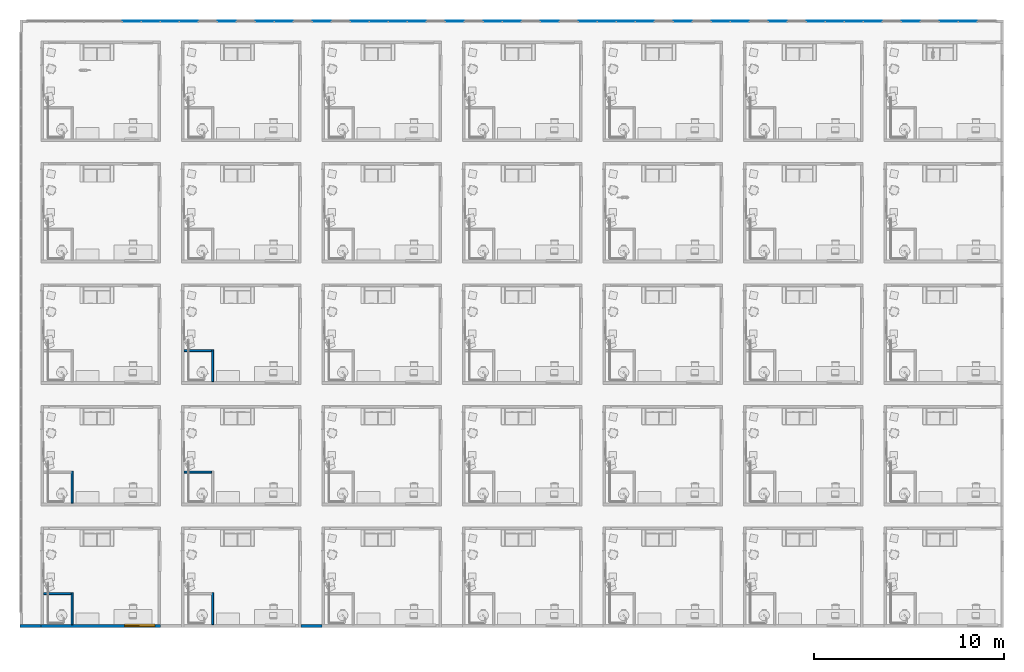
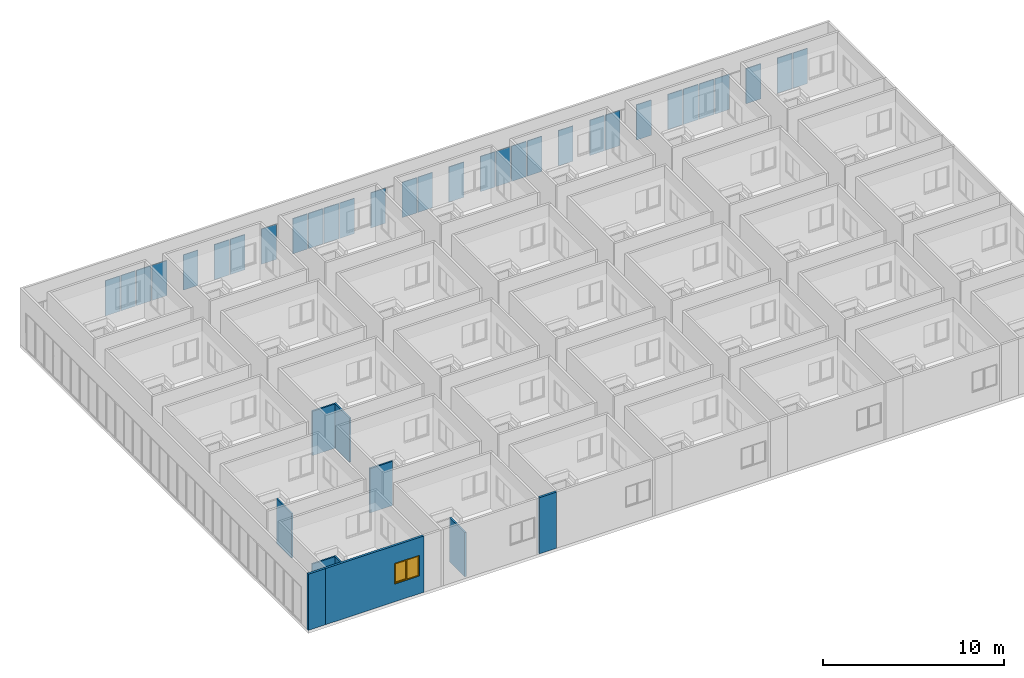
# One storey, part 6 of 71: 31 plates, 10 walls, 1 window, 1 opening, 1 element without a shape of its own.
"""IFC4 building model written with IfcOpenShell, lengths in centimetres."""

from ifc_helpers import new_model, entity, si_unit, converted_unit, derived_unit, direction, frame, origin, place, context, subcontext, project, spatial, indexed_curve, outline, extrude, polygons, source, transform, mapped, material, constituent, constituent_set, type_object, type_shapes, element, fill, aggregate, save


model = new_model("IFC4")

# Units and contexts
model_context = context("Model", 3, precision=0.001, world=origin(), true_north=direction((6.123233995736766e-17, 1.0)))
body_context = subcontext(model_context, "Body", "Model", "MODEL_VIEW")
ifc_project = project(units=[si_unit("LENGTHUNIT", "METRE", prefix="CENTI"), si_unit("AREAUNIT", "SQUARE_METRE"), si_unit("VOLUMEUNIT", "CUBIC_METRE"), derived_unit("THERMALTRANSMITTANCEUNIT", [(si_unit("MASSUNIT", "GRAM", prefix="KILO"), 1), (si_unit("THERMODYNAMICTEMPERATUREUNIT", "KELVIN"), -1), (si_unit("TIMEUNIT", "SECOND"), -3)]), converted_unit("PLANEANGLEUNIT", "DEGREE", entity("IfcPlaneAngleMeasure", 0.017453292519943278), si_unit("PLANEANGLEUNIT", "RADIAN"), dimensions=[0, 0, 0, 0, 0, 0, 0]), derived_unit("MASSDENSITYUNIT", [(si_unit("MASSUNIT", "GRAM", prefix="KILO"), 1), (si_unit("LENGTHUNIT", "METRE"), -3)]), derived_unit("VAPORPERMEABILITYUNIT", [(si_unit("LENGTHUNIT", "METRE"), -1), (si_unit("TIMEUNIT", "SECOND"), 1)]), derived_unit("USERDEFINED", [(si_unit("MASSUNIT", "GRAM", prefix="KILO"), 1), (si_unit("TIMEUNIT", "SECOND"), -3), (si_unit("LENGTHUNIT", "METRE"), 3), (si_unit("ELECTRICCURRENTUNIT", "AMPERE"), -2)]), derived_unit("SPECIFICHEATCAPACITYUNIT", [(si_unit("THERMODYNAMICTEMPERATUREUNIT", "KELVIN"), -1), (si_unit("LENGTHUNIT", "METRE"), 2), (si_unit("TIMEUNIT", "SECOND"), -2)]), derived_unit("THERMALCONDUCTANCEUNIT", [(si_unit("MASSUNIT", "GRAM", prefix="KILO"), 1), (si_unit("THERMODYNAMICTEMPERATUREUNIT", "KELVIN"), -1), (si_unit("TIMEUNIT", "SECOND"), -3), (si_unit("LENGTHUNIT", "METRE"), 1)]), si_unit("PRESSUREUNIT", "PASCAL"), derived_unit("MODULUSOFELASTICITYUNIT", [(si_unit("MASSUNIT", "GRAM", prefix="KILO"), 1), (si_unit("LENGTHUNIT", "METRE"), -1), (si_unit("TIMEUNIT", "SECOND"), -2)]), derived_unit("THERMALEXPANSIONCOEFFICIENTUNIT", [(si_unit("THERMODYNAMICTEMPERATUREUNIT", "KELVIN"), -1)])], contexts=[model_context])

# Site, building, storey
site_placement = place(None, origin())
site = spatial("IfcSite", under=ifc_project, at=site_placement, Name="Default", CompositionType="ELEMENT")
building_placement = place(site_placement, origin())
building = spatial("IfcBuilding", under=site, at=building_placement, Name="IDS Escape Game Building", CompositionType="ELEMENT")
storey_placement = place(building_placement, frame((0.0, 0.0, 400.0)))
storey = spatial("IfcBuildingStorey", under=building, at=storey_placement, Name="01_First Floor", CompositionType="ELEMENT", Elevation=399.99999999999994)

# Curtain wall, plates
curtain_wall_type = type_object("IfcCurtainWallType", Name="Curtain Wall:ARC_31.3_CWA_LIB_bandraam vast 100cm - profiel 60x60_gen_BERSnl", PredefinedType="NOTDEFINED")
curtain_wall_placement = place(storey_placement, frame((0.0, 0.0, -400.0)))
curtain_wall = element("IfcCurtainWall", 1, at=curtain_wall_placement, inside=storey, type_object=curtain_wall_type, Name="Curtain Wall:ARC_31.3_CWA_LIB_bandraam vast 100cm - profiel 60x60_gen_BERSnl", ObjectType="Curtain Wall:ARC_31.3_CWA_LIB_bandraam vast 100cm - profiel 60x60_gen_BERSnl", PredefinedType="NOTDEFINED")
ifc_material_1 = material(Name="ARC_FME.o1_glass_00_gen_BERSnl", Category="o - glas")
plate_type = type_object("IfcPlateType", Name="System Panel:Glazed", PredefinedType="CURTAIN_PANEL", material=ifc_material_1)
shared_shape_1 = source(origin(), body_context, "Body", "SweptSolid", [
    extrude(outline(indexed_curve([(-2.5, -46.92156864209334), (2.5, -46.92156864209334), (2.5, 46.92156864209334), (-2.5, 46.92156864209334), (-2.5, -46.92156864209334)], self_intersect=False)), frame((0.0, 0.0, 0.0), z_axis=(0.0, 0.0, 1.0), x_axis=(0.0, 1.0, 0.0)), (0.0, 0.0, 1.0), 238.00000000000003),
])
type_shapes(plate_type, [shared_shape_1])
plate_1_placement = place(curtain_wall_placement, frame((469.1372549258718, 3182.0, 406.0)))
plate_1 = element("IfcPlate", 2, at=plate_1_placement, type_object=plate_type, material=ifc_material_1, Name="System Panel:Glazed", ObjectType="System Panel:Glazed", PredefinedType="CURTAIN_PANEL", context=body_context, shape_type="MappedRepresentation", body=[
    mapped(shared_shape_1, transform((0.0, 0.0, 0.0), scale=1.0)),
])
plate_2_placement = place(curtain_wall_placement, frame((568.9803921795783, 3182.0, 406.0)))
plate_2 = element("IfcPlate", 3, at=plate_2_placement, type_object=plate_type, material=ifc_material_1, Name="System Panel:Glazed", ObjectType="System Panel:Glazed", PredefinedType="CURTAIN_PANEL", context=body_context, shape_type="MappedRepresentation", body=[
    mapped(shared_shape_1, transform((0.0, 0.0, 0.0), scale=1.0)),
])
plate_3_placement = place(curtain_wall_placement, frame((668.823529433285, 3182.0, 406.0)))
plate_3 = element("IfcPlate", 4, at=plate_3_placement, type_object=plate_type, material=ifc_material_1, Name="System Panel:Glazed", ObjectType="System Panel:Glazed", PredefinedType="CURTAIN_PANEL", context=body_context, shape_type="MappedRepresentation", body=[
    mapped(shared_shape_1, transform((0.0, 0.0, 0.0), scale=1.0)),
])
plate_4_placement = place(curtain_wall_placement, frame((768.6666666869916, 3182.0, 406.0)))
plate_4 = element("IfcPlate", 5, at=plate_4_placement, type_object=plate_type, material=ifc_material_1, Name="System Panel:Glazed", ObjectType="System Panel:Glazed", PredefinedType="CURTAIN_PANEL", context=body_context, shape_type="MappedRepresentation", body=[
    mapped(shared_shape_1, transform((0.0, 0.0, 0.0), scale=1.0)),
])
plate_5_placement = place(curtain_wall_placement, frame((968.3529411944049, 3182.0, 406.0)))
plate_5 = element("IfcPlate", 6, at=plate_5_placement, type_object=plate_type, material=ifc_material_1, Name="System Panel:Glazed", ObjectType="System Panel:Glazed", PredefinedType="CURTAIN_PANEL", context=body_context, shape_type="MappedRepresentation", body=[
    mapped(shared_shape_1, transform((0.0, 0.0, 0.0), scale=1.0)),
])
plate_6_placement = place(curtain_wall_placement, frame((1168.0392157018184, 3182.0, 406.0)))
plate_6 = element("IfcPlate", 7, at=plate_6_placement, type_object=plate_type, material=ifc_material_1, Name="System Panel:Glazed", ObjectType="System Panel:Glazed", PredefinedType="CURTAIN_PANEL", context=body_context, shape_type="MappedRepresentation", body=[
    mapped(shared_shape_1, transform((0.0, 0.0, 0.0), scale=1.0)),
])
plate_7_placement = place(curtain_wall_placement, frame((1267.8823529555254, 3182.0, 406.0)))
plate_7 = element("IfcPlate", 8, at=plate_7_placement, type_object=plate_type, material=ifc_material_1, Name="System Panel:Glazed", ObjectType="System Panel:Glazed", PredefinedType="CURTAIN_PANEL", context=body_context, shape_type="MappedRepresentation", body=[
    mapped(shared_shape_1, transform((0.0, 0.0, 0.0), scale=1.0)),
])
plate_8_placement = place(curtain_wall_placement, frame((1467.568627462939, 3182.0, 406.0)))
plate_8 = element("IfcPlate", 9, at=plate_8_placement, type_object=plate_type, material=ifc_material_1, Name="System Panel:Glazed", ObjectType="System Panel:Glazed", PredefinedType="CURTAIN_PANEL", context=body_context, shape_type="MappedRepresentation", body=[
    mapped(shared_shape_1, transform((0.0, 0.0, 0.0), scale=1.0)),
])
plate_9_placement = place(curtain_wall_placement, frame((1667.2549019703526, 3182.0, 406.0)))
plate_9 = element("IfcPlate", 10, at=plate_9_placement, type_object=plate_type, material=ifc_material_1, Name="System Panel:Glazed", ObjectType="System Panel:Glazed", PredefinedType="CURTAIN_PANEL", context=body_context, shape_type="MappedRepresentation", body=[
    mapped(shared_shape_1, transform((0.0, 0.0, 0.0), scale=1.0)),
])
plate_10_placement = place(curtain_wall_placement, frame((1767.0980392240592, 3182.0, 406.0)))
plate_10 = element("IfcPlate", 11, at=plate_10_placement, type_object=plate_type, material=ifc_material_1, Name="System Panel:Glazed", ObjectType="System Panel:Glazed", PredefinedType="CURTAIN_PANEL", context=body_context, shape_type="MappedRepresentation", body=[
    mapped(shared_shape_1, transform((0.0, 0.0, 0.0), scale=1.0)),
])
plate_11_placement = place(curtain_wall_placement, frame((1866.9411764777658, 3182.0, 406.0)))
plate_11 = element("IfcPlate", 12, at=plate_11_placement, type_object=plate_type, material=ifc_material_1, Name="System Panel:Glazed", ObjectType="System Panel:Glazed", PredefinedType="CURTAIN_PANEL", context=body_context, shape_type="MappedRepresentation", body=[
    mapped(shared_shape_1, transform((0.0, 0.0, 0.0), scale=1.0)),
])
plate_12_placement = place(curtain_wall_placement, frame((1966.7843137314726, 3182.0, 406.0)))
plate_12 = element("IfcPlate", 13, at=plate_12_placement, type_object=plate_type, material=ifc_material_1, Name="System Panel:Glazed", ObjectType="System Panel:Glazed", PredefinedType="CURTAIN_PANEL", context=body_context, shape_type="MappedRepresentation", body=[
    mapped(shared_shape_1, transform((0.0, 0.0, 0.0), scale=1.0)),
])
plate_13_placement = place(curtain_wall_placement, frame((2166.4705882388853, 3182.0, 406.0)))
plate_13 = element("IfcPlate", 14, at=plate_13_placement, type_object=plate_type, material=ifc_material_1, Name="System Panel:Glazed", ObjectType="System Panel:Glazed", PredefinedType="CURTAIN_PANEL", context=body_context, shape_type="MappedRepresentation", body=[
    mapped(shared_shape_1, transform((0.0, 0.0, 0.0), scale=1.0)),
])
plate_14_placement = place(curtain_wall_placement, frame((2366.156862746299, 3182.0, 406.0)))
plate_14 = element("IfcPlate", 15, at=plate_14_placement, type_object=plate_type, material=ifc_material_1, Name="System Panel:Glazed", ObjectType="System Panel:Glazed", PredefinedType="CURTAIN_PANEL", context=body_context, shape_type="MappedRepresentation", body=[
    mapped(shared_shape_1, transform((0.0, 0.0, 0.0), scale=1.0)),
])
plate_15_placement = place(curtain_wall_placement, frame((2466.0, 3182.0, 406.0)))
plate_15 = element("IfcPlate", 16, at=plate_15_placement, type_object=plate_type, material=ifc_material_1, Name="System Panel:Glazed", ObjectType="System Panel:Glazed", PredefinedType="CURTAIN_PANEL", context=body_context, shape_type="MappedRepresentation", body=[
    mapped(shared_shape_1, transform((0.0, 0.0, 0.0), scale=1.0)),
])
plate_16_placement = place(curtain_wall_placement, frame((2665.6862745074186, 3182.0, 406.0)))
plate_16 = element("IfcPlate", 17, at=plate_16_placement, type_object=plate_type, material=ifc_material_1, Name="System Panel:Glazed", ObjectType="System Panel:Glazed", PredefinedType="CURTAIN_PANEL", context=body_context, shape_type="MappedRepresentation", body=[
    mapped(shared_shape_1, transform((0.0, 0.0, 0.0), scale=1.0)),
])
plate_17_placement = place(curtain_wall_placement, frame((2865.3725490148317, 3182.0, 406.0)))
plate_17 = element("IfcPlate", 18, at=plate_17_placement, type_object=plate_type, material=ifc_material_1, Name="System Panel:Glazed", ObjectType="System Panel:Glazed", PredefinedType="CURTAIN_PANEL", context=body_context, shape_type="MappedRepresentation", body=[
    mapped(shared_shape_1, transform((0.0, 0.0, 0.0), scale=1.0)),
])
plate_18_placement = place(curtain_wall_placement, frame((2965.2156862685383, 3182.0, 406.0)))
plate_18 = element("IfcPlate", 19, at=plate_18_placement, type_object=plate_type, material=ifc_material_1, Name="System Panel:Glazed", ObjectType="System Panel:Glazed", PredefinedType="CURTAIN_PANEL", context=body_context, shape_type="MappedRepresentation", body=[
    mapped(shared_shape_1, transform((0.0, 0.0, 0.0), scale=1.0)),
])
plate_19_placement = place(curtain_wall_placement, frame((3065.0588235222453, 3182.0, 406.0)))
plate_19 = element("IfcPlate", 20, at=plate_19_placement, type_object=plate_type, material=ifc_material_1, Name="System Panel:Glazed", ObjectType="System Panel:Glazed", PredefinedType="CURTAIN_PANEL", context=body_context, shape_type="MappedRepresentation", body=[
    mapped(shared_shape_1, transform((0.0, 0.0, 0.0), scale=1.0)),
])
plate_20_placement = place(curtain_wall_placement, frame((3164.9019607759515, 3182.0, 406.0)))
plate_20 = element("IfcPlate", 21, at=plate_20_placement, type_object=plate_type, material=ifc_material_1, Name="System Panel:Glazed", ObjectType="System Panel:Glazed", PredefinedType="CURTAIN_PANEL", context=body_context, shape_type="MappedRepresentation", body=[
    mapped(shared_shape_1, transform((0.0, 0.0, 0.0), scale=1.0)),
])
plate_21_placement = place(curtain_wall_placement, frame((3364.588235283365, 3182.0, 406.0)))
plate_21 = element("IfcPlate", 22, at=plate_21_placement, type_object=plate_type, material=ifc_material_1, Name="System Panel:Glazed", ObjectType="System Panel:Glazed", PredefinedType="CURTAIN_PANEL", context=body_context, shape_type="MappedRepresentation", body=[
    mapped(shared_shape_1, transform((0.0, 0.0, 0.0), scale=1.0)),
])
plate_22_placement = place(curtain_wall_placement, frame((3564.2745097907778, 3182.0, 406.0)))
plate_22 = element("IfcPlate", 23, at=plate_22_placement, type_object=plate_type, material=ifc_material_1, Name="System Panel:Glazed", ObjectType="System Panel:Glazed", PredefinedType="CURTAIN_PANEL", context=body_context, shape_type="MappedRepresentation", body=[
    mapped(shared_shape_1, transform((0.0, 0.0, 0.0), scale=1.0)),
])
plate_23_placement = place(curtain_wall_placement, frame((3664.117647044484, 3182.0, 406.0)))
plate_23 = element("IfcPlate", 24, at=plate_23_placement, type_object=plate_type, material=ifc_material_1, Name="System Panel:Glazed", ObjectType="System Panel:Glazed", PredefinedType="CURTAIN_PANEL", context=body_context, shape_type="MappedRepresentation", body=[
    mapped(shared_shape_1, transform((0.0, 0.0, 0.0), scale=1.0)),
])
plate_24_placement = place(curtain_wall_placement, frame((3863.8039215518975, 3182.0, 406.0)))
plate_24 = element("IfcPlate", 25, at=plate_24_placement, type_object=plate_type, material=ifc_material_1, Name="System Panel:Glazed", ObjectType="System Panel:Glazed", PredefinedType="CURTAIN_PANEL", context=body_context, shape_type="MappedRepresentation", body=[
    mapped(shared_shape_1, transform((0.0, 0.0, 0.0), scale=1.0)),
])
plate_25_placement = place(curtain_wall_placement, frame((4063.4901960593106, 3182.0, 406.0)))
plate_25 = element("IfcPlate", 26, at=plate_25_placement, type_object=plate_type, material=ifc_material_1, Name="System Panel:Glazed", ObjectType="System Panel:Glazed", PredefinedType="CURTAIN_PANEL", context=body_context, shape_type="MappedRepresentation", body=[
    mapped(shared_shape_1, transform((0.0, 0.0, 0.0), scale=1.0)),
])
plate_26_placement = place(curtain_wall_placement, frame((4163.333333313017, 3182.0, 406.0)))
plate_26 = element("IfcPlate", 27, at=plate_26_placement, type_object=plate_type, material=ifc_material_1, Name="System Panel:Glazed", ObjectType="System Panel:Glazed", PredefinedType="CURTAIN_PANEL", context=body_context, shape_type="MappedRepresentation", body=[
    mapped(shared_shape_1, transform((0.0, 0.0, 0.0), scale=1.0)),
])
plate_27_placement = place(curtain_wall_placement, frame((4263.176470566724, 3182.0, 406.0)))
plate_27 = element("IfcPlate", 28, at=plate_27_placement, type_object=plate_type, material=ifc_material_1, Name="System Panel:Glazed", ObjectType="System Panel:Glazed", PredefinedType="CURTAIN_PANEL", context=body_context, shape_type="MappedRepresentation", body=[
    mapped(shared_shape_1, transform((0.0, 0.0, 0.0), scale=1.0)),
])
plate_28_placement = place(curtain_wall_placement, frame((4363.01960782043, 3182.0, 406.0)))
plate_28 = element("IfcPlate", 29, at=plate_28_placement, type_object=plate_type, material=ifc_material_1, Name="System Panel:Glazed", ObjectType="System Panel:Glazed", PredefinedType="CURTAIN_PANEL", context=body_context, shape_type="MappedRepresentation", body=[
    mapped(shared_shape_1, transform((0.0, 0.0, 0.0), scale=1.0)),
])
plate_29_placement = place(curtain_wall_placement, frame((4562.705882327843, 3182.0, 406.0)))
plate_29 = element("IfcPlate", 30, at=plate_29_placement, type_object=plate_type, material=ifc_material_1, Name="System Panel:Glazed", ObjectType="System Panel:Glazed", PredefinedType="CURTAIN_PANEL", context=body_context, shape_type="MappedRepresentation", body=[
    mapped(shared_shape_1, transform((0.0, 0.0, 0.0), scale=1.0)),
])
plate_30_placement = place(curtain_wall_placement, frame((4762.392156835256, 3182.0, 406.0)))
plate_30 = element("IfcPlate", 31, at=plate_30_placement, type_object=plate_type, material=ifc_material_1, Name="System Panel:Glazed", ObjectType="System Panel:Glazed", PredefinedType="CURTAIN_PANEL", context=body_context, shape_type="MappedRepresentation", body=[
    mapped(shared_shape_1, transform((0.0, 0.0, 0.0), scale=1.0)),
])
plate_31_placement = place(curtain_wall_placement, frame((4862.235294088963, 3182.0, 406.0)))
plate_31 = element("IfcPlate", 32, at=plate_31_placement, type_object=plate_type, material=ifc_material_1, Name="System Panel:Glazed", ObjectType="System Panel:Glazed", PredefinedType="CURTAIN_PANEL", context=body_context, shape_type="MappedRepresentation", body=[
    mapped(shared_shape_1, transform((0.0, 0.0, 0.0), scale=1.0)),
])
aggregate(curtain_wall, [plate_1, plate_2, plate_3, plate_4, plate_5, plate_6, plate_7, plate_8, plate_9, plate_10, plate_11, plate_12, plate_13, plate_14, plate_15, plate_16, plate_17, plate_18, plate_19, plate_20, plate_21, plate_22, plate_23, plate_24, plate_25, plate_26, plate_27, plate_28, plate_29, plate_30, plate_31])

# Wall, opening, window
ifc_material_2 = material(Name="ARC_FME.g2_Fg2 Masonry_00_gen_BERSnl", Category="g - klei")
wall_type_1 = type_object("IfcWallType", Name="Basic Wall:ARC_22.10_WA_LB_SB14_gen_BERSnl", PredefinedType="STANDARD")
wall_1_placement = place(storey_placement, frame((-7.0, 6.0, 0.0)))
wall_1 = element("IfcWall", 33, at=wall_1_placement, inside=storey, type_object=wall_type_1, material=ifc_material_2, Name="Basic Wall:ARC_22.10_WA_LB_SB14_gen_BERSnl", ObjectType="Basic Wall:ARC_22.10_WA_LB_SB14_gen_BERSnl", PredefinedType="NOTDEFINED", context=body_context, shape_type="Tessellation", body=[
    polygons([(1.0997869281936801e-14, -7.000000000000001, 0.0), (627.9999999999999, -7.000000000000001, 0.0), (627.9999999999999, -7.000000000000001, 379.9999999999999), (0.0, -7.000000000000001, 379.9999999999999), (438.99999999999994, -7.000000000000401, 120.0), (438.99999999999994, -7.000000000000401, 260.0000000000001), (598.9999999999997, -7.000000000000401, 260.0000000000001), (598.9999999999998, -7.0000000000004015, 120.0), (439.0, 6.999999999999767, 260.0000000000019), (438.99999999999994, 6.999999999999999, 120.0), (598.9999999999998, 6.999999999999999, 120.0), (598.9999999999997, 6.999999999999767, 260.0000000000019), (0.0, 6.999999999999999, 0.0), (0.0, 6.999999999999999, 379.9999999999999), (13.999999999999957, 6.999999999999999, 380.0), (614.0, 6.999999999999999, 380.0), (627.9999999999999, 6.999999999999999, 379.9999999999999), (627.9999999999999, 6.999999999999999, 0.0), (614.0, 6.999999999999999, 0.0), (169.00000000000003, 6.999999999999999, 0.0), (159.0000000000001, 6.999999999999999, 0.0), (14.000000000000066, 6.999999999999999, 0.0)], [[[1, 2, 3, 4], [5, 6, 7, 8]], [[13, 14, 15, 16, 17, 18, 19, 20, 21, 22], [9, 10, 11, 12]], [[2, 1, 13, 22, 21, 20, 19, 18]], [[4, 3, 17, 16, 15, 14]], [[8, 11, 10, 5]], [[6, 5, 10, 9]], [[11, 8, 7, 12]], [[6, 9, 12, 7]], [[1, 4, 14, 13]], [[3, 2, 18, 17]]], closed=True),
])
opening_placement = place(wall_1_placement, frame((7.0, -6.0, 120.0)))
opening = element("IfcOpeningElement", 34, at=opening_placement, cuts=wall_1, Name="Basic Wall:ARC_22.10_WA_LB_SB14_gen_BERSnl", PredefinedType="OPENING", context=body_context, shape_type="Tessellation", body=[
    polygons([(431.9999999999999, -0.9999999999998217, 0.0), (431.9999999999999, -0.9999999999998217, -1.0), (431.9999999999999, -5.999999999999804, -1.0), (431.9999999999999, -5.999999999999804, 0.0), (591.9999999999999, -0.9999999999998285, 0.0), (591.9999999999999, -5.999999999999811, 0.0), (591.9999999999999, -5.999999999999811, -1.0), (591.9999999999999, -0.9999999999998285, -1.0), (436.99999999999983, -1.000000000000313, 0.0), (586.9999999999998, -1.000000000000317, 0.0), (586.9999999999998, -5.999999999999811, 0.0), (586.9999999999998, -6.000000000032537, 134.99999999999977), (436.99999999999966, -6.00000000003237, 134.99999999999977), (436.99999999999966, -5.999999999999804, 0.0), (431.99999999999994, 18.036825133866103, 0.0), (431.99999999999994, -1.00000000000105, 0.0), (431.9999999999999, -1.00000000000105, 140.00000000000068), (431.9999999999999, 18.036825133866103, 140.00000000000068), (591.9999999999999, 18.036825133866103, 140.0000000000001), (591.9999999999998, -1.00000000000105, 140.0000000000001), (591.9999999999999, -1.0000000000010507, 0.0), (591.9999999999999, 18.036825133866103, 0.0), (436.99999999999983, -1.0000000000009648, 134.99999999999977), (586.9999999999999, -1.0000000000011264, 134.99999999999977)], [[[1, 2, 3, 4]], [[5, 6, 7, 8]], [[1, 9, 10, 5, 8, 2]], [[2, 8, 7, 3]], [[3, 7, 6, 11, 12, 13, 14, 4]], [[4, 14, 9, 1]], [[15, 16, 17, 18]], [[19, 20, 21, 22]], [[18, 17, 20, 19]], [[18, 19, 22, 15]], [[17, 16, 9, 23, 24, 10, 21, 20]], [[22, 21, 10, 9, 16, 15]], [[11, 10, 24, 12]], [[13, 23, 9, 14]], [[12, 24, 23, 13]], [[5, 10, 11, 6]]], closed=True),
])
ifc_material_3 = material(Name="<Unnamed>")
ifc_constituent_1 = constituent(ifc_material_3, Name="<Unnamed>", fraction=0.0)
ifc_constituent_2 = constituent(ifc_material_1, Name="ARC_FME.o1_glass_00_gen_BERSnl", Category="o - glas", fraction=1.0)
ifc_constituent_set_1 = constituent_set(constituents=[ifc_constituent_1, ifc_constituent_2])
ifc_constituent_3 = constituent(ifc_material_3, Name="BE Tablet", fraction=0.0)
ifc_constituent_4 = constituent(ifc_material_3, Name="Frame/Mullion", fraction=0.0)
ifc_constituent_5 = constituent(ifc_material_1, Name="Glass", Category="o - glas", fraction=1.0)
ifc_constituent_set_2 = constituent_set(constituents=[ifc_constituent_3, ifc_constituent_4, ifc_constituent_5])
window_type = type_object("IfcWindowType", Name="ARC_31_WI_WB_Dubbel Raam-Recht-Vast en Draaiend_gen_BERSnl:Links-Draaiend / Rechts-Draaiend", PartitioningType="NOTDEFINED", PredefinedType="WINDOW", material=ifc_constituent_set_2)
shared_shape_2 = source(origin(), body_context, "Body", "Tessellation", [
    extrude(outline(indexed_curve([(-80.00000000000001, -4.999999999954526), (80.00000000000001, -4.999999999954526), (80.00000000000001, 4.999999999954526), (-80.00000000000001, 4.999999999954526), (-80.00000000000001, -4.999999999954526)], self_intersect=False)), frame((80.0, 7.036825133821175, 1.0), z_axis=(0.0, 0.0, 1.0), x_axis=(-1.0, 0.0, 0.0)), (0.0, 0.0, 1.0), 2.000000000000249),
    extrude(outline(indexed_curve([(-2.9999999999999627, -3.000000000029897), (-7.656209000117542e-14, -3.000000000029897), (-7.064016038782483e-14, 5.979964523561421e-11), (3.0000000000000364, 5.978991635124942e-11), (3.0000000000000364, 2.9999999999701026), (-2.9999999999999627, 2.9999999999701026), (-2.9999999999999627, -3.000000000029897)], self_intersect=False)), frame((80.0, 15.03682513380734, 7.0)), (0.0, 0.0, 1.0), 128.00000000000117),
    extrude(outline(indexed_curve([(-35.499999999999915, -1.2000000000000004), (35.499999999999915, -1.2000000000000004), (35.49999999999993, 1.2), (-35.499999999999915, 1.2), (-35.499999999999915, -1.2000000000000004)], self_intersect=False)), frame((41.50000000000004, 15.036825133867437, 7.0), z_axis=(0.0, 0.0, 1.0), x_axis=(-1.0, 0.0, 0.0)), (0.0, 0.0, 1.0), 128.000000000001),
    extrude(outline(indexed_curve([(-67.00000000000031, -38.500000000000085), (67.00000000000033, -38.5000000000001), (67.00000000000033, 38.50000000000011), (-67.00000000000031, 38.50000000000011), (-67.00000000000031, -38.500000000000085)], self_intersect=False), holes=[indexed_curve([(61.00000000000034, -32.50000000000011), (-61.00000000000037, -32.500000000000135), (-61.00000000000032, 32.50000000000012), (61.00000000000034, 32.50000000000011), (61.00000000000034, -32.50000000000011)], self_intersect=False)]), frame((118.5, 9.03682513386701, 71.0), z_axis=(0.0, 1.0, 0.0), x_axis=(0.0, 0.0, -1.0)), (0.0, 0.0, 1.0), 6.0),
    extrude(outline(indexed_curve([(-32.500000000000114, -1.2000000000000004), (32.500000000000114, -1.2000000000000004), (32.500000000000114, 1.2000000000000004), (-32.500000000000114, 1.2000000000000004), (-32.500000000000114, -1.2000000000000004)], self_intersect=False)), frame((118.5, 12.036825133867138, 10.0), z_axis=(0.0, 0.0, 1.0), x_axis=(-1.0, 0.0, 0.0)), (0.0, 0.0, 1.0), 122.00000000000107),
    polygons([(160.00000000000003, 18.03682513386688, 141.00000000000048), (160.00000000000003, 18.03682513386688, 1.0000000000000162), (4.0607517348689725e-14, 18.036825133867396, 1.0000000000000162), (4.0607517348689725e-14, 18.036825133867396, 141.00000000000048), (6.000000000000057, 18.03682513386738, 135.00000000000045), (6.000000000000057, 18.03682513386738, 7.000000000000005), (76.99999999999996, 18.03682513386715, 7.000000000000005), (154.00000000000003, 18.0368251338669, 7.000000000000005), (154.00000000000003, 18.0368251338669, 135.00000000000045), (76.99999999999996, 18.03682513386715, 135.00000000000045), (160.0, 12.03682513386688, 141.00000000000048), (160.0, 12.03682513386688, 1.0000000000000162), (2.7071678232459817e-14, 12.036825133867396, 1.0000000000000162), (2.7071678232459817e-14, 12.036825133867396, 141.00000000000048), (6.000000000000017, 12.036825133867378, 135.00000000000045), (6.000000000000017, 12.036825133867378, 7.000000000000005), (76.99999999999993, 12.036825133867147, 7.000000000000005), (79.99999999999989, 12.036825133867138, 7.000000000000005), (79.9999999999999, 15.036825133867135, 7.000000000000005), (154.00000000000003, 15.0368251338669, 7.000000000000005), (154.00000000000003, 15.036825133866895, 135.00000000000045), (76.99999999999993, 12.036825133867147, 135.00000000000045), (79.99999999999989, 12.036825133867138, 135.00000000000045), (79.99999999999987, 12.036825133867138, 138.00000000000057), (157.00000000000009, 12.036825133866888, 138.00000000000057), (157.00000000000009, 12.036825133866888, 3.9999999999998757), (79.99999999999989, 12.036825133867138, 3.9999999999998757), (157.0000000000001, 15.036825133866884, 3.9999999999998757), (157.0000000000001, 15.036825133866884, 138.00000000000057), (79.99999999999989, 15.036825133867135, 3.9999999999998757), (79.99999999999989, 15.036825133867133, 138.00000000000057), (79.99999999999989, 15.036825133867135, 135.00000000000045)], [[[1, 2, 3, 4], [5, 6, 7, 8, 9, 10]], [[2, 1, 11, 12]], [[3, 2, 12, 13]], [[4, 3, 13, 14]], [[6, 5, 15, 16]], [[6, 16, 17, 18, 19, 20, 8, 7]], [[9, 8, 20, 21]], [[11, 14, 13, 12], [16, 15, 22, 23, 24, 25, 26, 27, 18, 17]], [[28, 26, 25, 29]], [[30, 27, 26, 28]], [[31, 24, 23, 32]], [[30, 28, 29, 31, 32, 21, 20, 19]], [[1, 4, 14, 11]], [[15, 5, 10, 9, 21, 32, 23, 22]], [[24, 31, 29, 25]], [[27, 30, 19, 18]]], closed=True),
])
type_shapes(window_type, [shared_shape_2])
window_placement = place(opening_placement, frame((592.0, 18.036825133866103, -1.0), z_axis=(0.0, 0.0, 1.0), x_axis=(-1.0, 0.0, 0.0)))
window = element("IfcWindow", 35, at=window_placement, inside=storey, type_object=window_type, material=ifc_constituent_set_1, Name="ARC_31_WI_WB_Dubbel Raam-Recht-Vast en Draaiend_gen_BERSnl:Links-Draaiend / Rechts-Draaiend", ObjectType="ARC_31_WI_WB_Dubbel Raam-Recht-Vast en Draaiend_gen_BERSnl:Links-Draaiend / Rechts-Draaiend", OverallHeight=140.00000000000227, OverallWidth=160.0000000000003, PartitioningType="NOTDEFINED", PredefinedType="WINDOW", context=body_context, shape_type="MappedRepresentation", body=[
    mapped(shared_shape_2, transform((0.0, 0.0, 0.0), scale=1.0)),
])
fill(opening, window)

# Walls
wall_2_placement = place(storey_placement, frame((1469.0, 6.0, 0.0), z_axis=(0.0, 0.0, 1.0), x_axis=(-1.0, 0.0, 0.0)))
element("IfcWall", 36, at=wall_2_placement, inside=storey, type_object=wall_type_1, material=ifc_material_2, Name="Basic Wall:ARC_22.10_WA_LB_SB14_gen_BERSnl", ObjectType="Basic Wall:ARC_22.10_WA_LB_SB14_gen_BERSnl", PredefinedType="NOTDEFINED", context=body_context, shape_type="SweptSolid", body=[
    extrude(outline(indexed_curve([(109.99999999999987, 6.999999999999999), (-2.2611003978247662e-14, 7.0), (2.2611003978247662e-14, -6.999999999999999), (109.99999999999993, -6.999999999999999), (109.99999999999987, 6.999999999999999)], self_intersect=False)), origin(), (0.0, 0.0, 1.0), 380.0),
])
wall_3_placement = place(storey_placement, frame((-7.0, 6.0, 0.0), z_axis=(0.0, 0.0, 1.0), x_axis=(-1.0, 0.0, 0.0)))
element("IfcWall", 37, at=wall_3_placement, inside=storey, type_object=wall_type_1, material=ifc_material_2, Name="Basic Wall:ARC_22.10_WA_LB_SB14_gen_BERSnl", ObjectType="Basic Wall:ARC_22.10_WA_LB_SB14_gen_BERSnl", PredefinedType="NOTDEFINED", context=body_context, shape_type="SweptSolid", body=[
    extrude(outline(indexed_curve([(110.00000000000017, 7.000000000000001), (2.3072453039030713e-16, 7.0), (-2.307245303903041e-16, -7.000000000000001), (110.00000000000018, -7.000000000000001), (110.00000000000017, 7.000000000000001)], self_intersect=False)), origin(), (0.0, 0.0, 1.0), 380.0),
])
ifc_material_4 = material(Name="ARC_FME.r2_Plaster_white_gen_BERSnl", Category="r - klei, gips, magnesium en kunststof bindmiddelen")
wall_type_2 = type_object("IfcWallType", Name="Basic Wall:ARC_22.10_WA_LB_GPS10_gen_BERSnl", PredefinedType="STANDARD")
wall_4_placement = place(storey_placement, frame((157.0, 13.0, 0.0), z_axis=(0.0, 0.0, 1.0), x_axis=(0.0, 1.0, 0.0)))
element("IfcWall", 38, at=wall_4_placement, inside=storey, type_object=wall_type_2, material=ifc_material_4, Name="Basic Wall:ARC_22.10_WA_LB_GPS10_gen_BERSnl", ObjectType="Basic Wall:ARC_22.10_WA_LB_GPS10_gen_BERSnl", PredefinedType="NOTDEFINED", context=body_context, shape_type="SweptSolid", body=[
    extrude(outline(indexed_curve([(168.00000000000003, 4.9999999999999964), (-1.1881077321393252e-15, 5.0), (-5.038721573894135e-16, -5.0), (168.00000000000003, -5.0000000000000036), (168.00000000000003, 4.9999999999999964)], self_intersect=False)), origin(), (0.0, 0.0, 1.0), 300.0),
])
wall_5_placement = place(storey_placement, frame((152.0, 176.0, 0.0), z_axis=(0.0, 0.0, 1.0), x_axis=(-1.0, 0.0, 0.0)))
element("IfcWall", 39, at=wall_5_placement, inside=storey, type_object=wall_type_2, material=ifc_material_4, Name="Basic Wall:ARC_22.10_WA_LB_GPS10_gen_BERSnl", ObjectType="Basic Wall:ARC_22.10_WA_LB_GPS10_gen_BERSnl", PredefinedType="NOTDEFINED", context=body_context, shape_type="SweptSolid", body=[
    extrude(outline(indexed_curve([(145.00000000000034, 5.000000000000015), (1.0690726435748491e-14, 5.0), (-1.0690726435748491e-14, -5.0), (145.00000000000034, -4.999999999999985), (145.00000000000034, 5.000000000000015)], self_intersect=False)), origin(), (0.0, 0.0, 1.0), 300.0),
])
wall_6_placement = place(storey_placement, frame((895.0, 13.0, 0.0), z_axis=(0.0, 0.0, 1.0), x_axis=(0.0, 1.0, 0.0)))
element("IfcWall", 40, at=wall_6_placement, inside=storey, type_object=wall_type_2, material=ifc_material_4, Name="Basic Wall:ARC_22.10_WA_LB_GPS10_gen_BERSnl", ObjectType="Basic Wall:ARC_22.10_WA_LB_GPS10_gen_BERSnl", PredefinedType="NOTDEFINED", context=body_context, shape_type="SweptSolid", body=[
    extrude(outline(indexed_curve([(168.00000000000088, 4.999999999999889), (-1.1881077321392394e-15, 4.999999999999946), (-5.038721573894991e-16, -4.999999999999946), (168.00000000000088, -5.0000000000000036), (168.00000000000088, 4.999999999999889)], self_intersect=False)), origin(), (0.0, 0.0, 1.0), 300.0),
])
wall_7_placement = place(storey_placement, frame((157.0, 651.0, 0.0), z_axis=(0.0, 0.0, 1.0), x_axis=(0.0, 1.0, 0.0)))
element("IfcWall", 41, at=wall_7_placement, inside=storey, type_object=wall_type_2, material=ifc_material_4, Name="Basic Wall:ARC_22.10_WA_LB_GPS10_gen_BERSnl", ObjectType="Basic Wall:ARC_22.10_WA_LB_GPS10_gen_BERSnl", PredefinedType="NOTDEFINED", context=body_context, shape_type="SweptSolid", body=[
    extrude(outline(indexed_curve([(168.00000000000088, 4.9999999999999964), (-7.956027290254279e-15, 5.0), (7.956027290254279e-15, -5.0), (168.00000000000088, -5.0000000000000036), (168.00000000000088, 4.9999999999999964)], self_intersect=False)), origin(), (0.0, 0.0, 1.0), 300.0),
])
wall_8_placement = place(storey_placement, frame((890.0, 814.0, 0.0), z_axis=(0.0, 0.0, 1.0), x_axis=(-1.0, 0.0, 0.0)))
element("IfcWall", 42, at=wall_8_placement, inside=storey, type_object=wall_type_2, material=ifc_material_4, Name="Basic Wall:ARC_22.10_WA_LB_GPS10_gen_BERSnl", ObjectType="Basic Wall:ARC_22.10_WA_LB_GPS10_gen_BERSnl", PredefinedType="NOTDEFINED", context=body_context, shape_type="SweptSolid", body=[
    extrude(outline(indexed_curve([(145.00000000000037, 4.99999999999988), (-1.6380951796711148e-14, 4.999999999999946), (1.6380951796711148e-14, -4.999999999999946), (145.00000000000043, -5.000000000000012), (145.00000000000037, 4.99999999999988)], self_intersect=False)), origin(), (0.0, 0.0, 1.0), 300.0),
])
wall_9_placement = place(storey_placement, frame((895.0, 1289.0, 0.0), z_axis=(0.0, 0.0, 1.0), x_axis=(0.0, 1.0, 0.0)))
element("IfcWall", 43, at=wall_9_placement, inside=storey, type_object=wall_type_2, material=ifc_material_4, Name="Basic Wall:ARC_22.10_WA_LB_GPS10_gen_BERSnl", ObjectType="Basic Wall:ARC_22.10_WA_LB_GPS10_gen_BERSnl", PredefinedType="NOTDEFINED", context=body_context, shape_type="SweptSolid", body=[
    extrude(outline(indexed_curve([(168.00000000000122, 4.999999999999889), (-7.956027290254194e-15, 4.999999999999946), (7.956027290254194e-15, -4.999999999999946), (168.00000000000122, -5.0000000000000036), (168.00000000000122, 4.999999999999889)], self_intersect=False)), origin(), (0.0, 0.0, 1.0), 300.0),
])
wall_10_placement = place(storey_placement, frame((890.0, 1452.0, 0.0), z_axis=(0.0, 0.0, 1.0), x_axis=(-1.0, 0.0, 0.0)))
element("IfcWall", 44, at=wall_10_placement, inside=storey, type_object=wall_type_2, material=ifc_material_4, Name="Basic Wall:ARC_22.10_WA_LB_GPS10_gen_BERSnl", ObjectType="Basic Wall:ARC_22.10_WA_LB_GPS10_gen_BERSnl", PredefinedType="NOTDEFINED", context=body_context, shape_type="SweptSolid", body=[
    extrude(outline(indexed_curve([(145.00000000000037, 4.9999999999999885), (-1.6380951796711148e-14, 4.999999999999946), (1.6380951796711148e-14, -4.999999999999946), (145.00000000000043, -4.999999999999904), (145.00000000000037, 4.9999999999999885)], self_intersect=False)), origin(), (0.0, 0.0, 1.0), 300.0),
])

save(model, "model.ifc")
